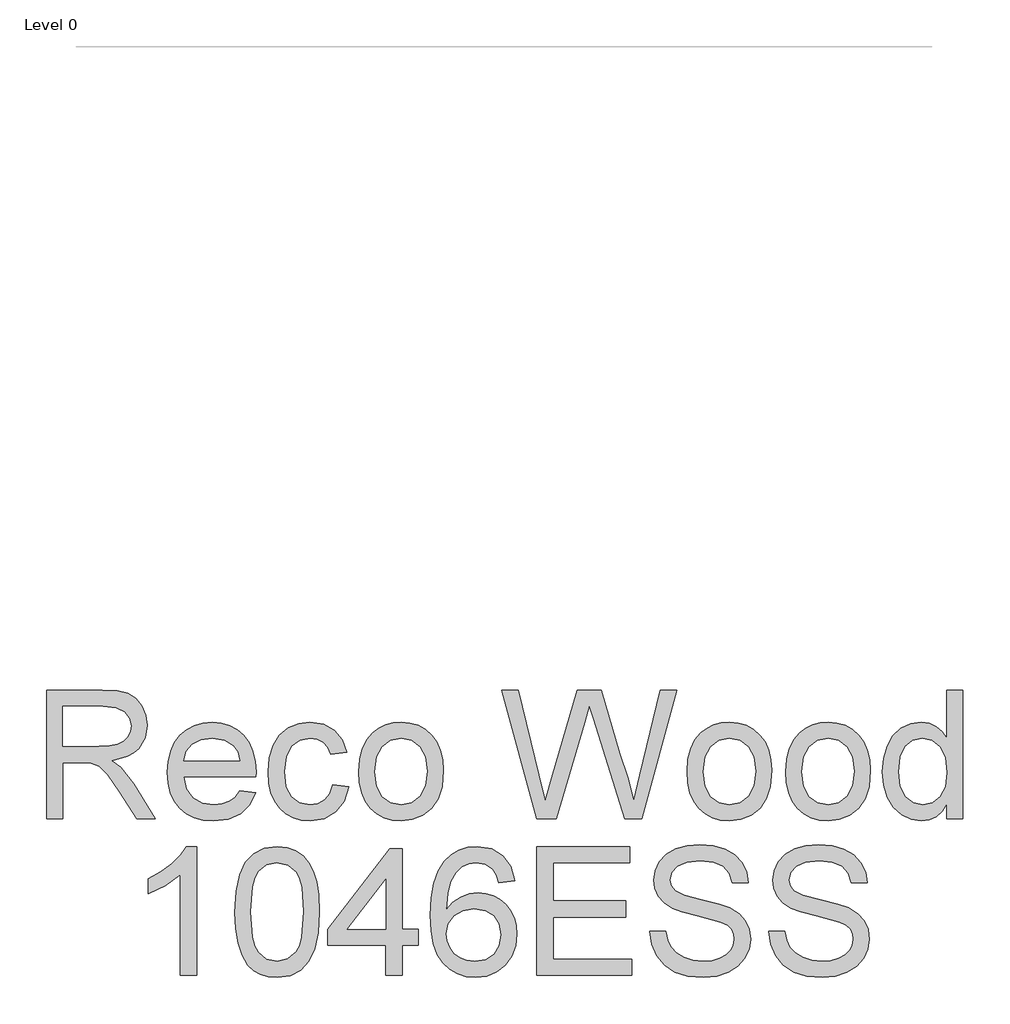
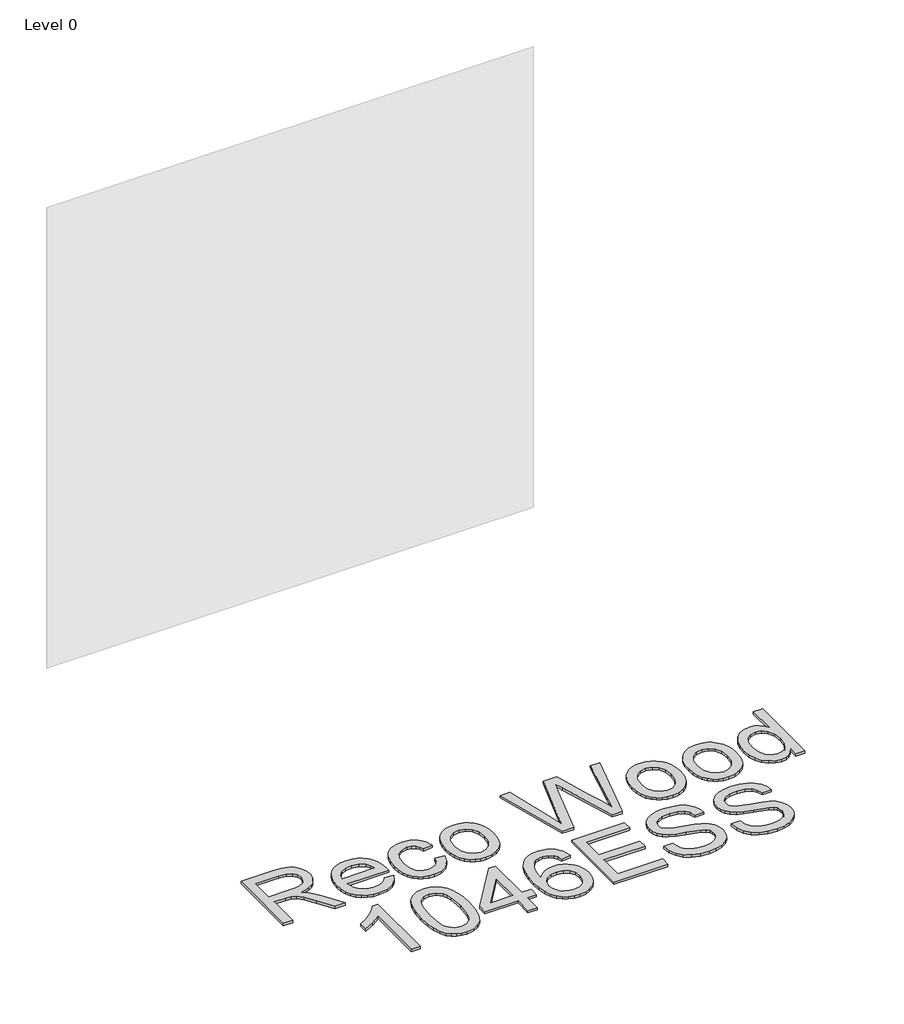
# One storey, part 40 of 43: 1 proxy.
"""IFC4 building model written with IfcOpenShell, lengths in millimetres."""

import ifcopenshell
import ifcopenshell.guid

model = None  # the IFC model being written
_history = None  # IfcOwnerHistory: only IFC2X3 demands one
_inside = {}  # id of a spatial element -> (the spatial element, [elements in it])
_under = {}  # id of a project, library or spatial element -> (it, [spatial elements below it])
_declared = {}  # id of a project -> (the project, [libraries it declares])
_typed = {}  # id of a type object -> (the type object, [elements of that type])
_made_of = {}  # id of a material, layer set ... -> (it, [elements and type objects made of it])


def new_model(schema):
    """Start an empty IFC model of exactly this schema.

    Asked for "IFC4X3", IfcOpenShell would pick the latest addendum, in which some entities
    have other attributes; the version numbers below select the first issue.
    IFC2X3 requires an IfcOwnerHistory on every rooted entity: one is made here for all.
    """
    global model, _history
    if schema == "IFC4X3":
        model = ifcopenshell.file(schema_version=(4, 3, 0, 0))
    else:
        model = ifcopenshell.file(schema=schema)
    _inside.clear()
    _under.clear()
    _declared.clear()
    _typed.clear()
    _made_of.clear()
    _history = None
    if model.schema == "IFC2X3":
        org = make("IfcOrganization", Name="unknown")
        user = make(
            "IfcPersonAndOrganization",
            ThePerson=make("IfcPerson", FamilyName="unknown"),
            TheOrganization=org,
        )
        app = make(
            "IfcApplication",
            ApplicationDeveloper=org,
            Version="unknown",
            ApplicationFullName="unknown",
            ApplicationIdentifier="unknown",
        )
        _history = make(
            "IfcOwnerHistory",
            OwningUser=user,
            OwningApplication=app,
            ChangeAction="ADDED",
            CreationDate=0,
        )
    return model


def make(cls, **values):
    """One entity of the class cls with the attributes given. An attribute that is None is left unset."""
    return model.create_entity(
        cls, **{name: value for name, value in values.items() if value is not None}
    )


def rooted(cls, **values):
    """An entity with a GlobalId (a new one), such as an element, a storey or a relation."""
    return make(cls, GlobalId=ifcopenshell.guid.new(), OwnerHistory=_history, **values)


def si_unit(unit_type, name, prefix=None):
    """IfcSIUnit, for example si_unit("LENGTHUNIT", "METRE", prefix="MILLI")."""
    return make("IfcSIUnit", UnitType=unit_type, Prefix=prefix, Name=name)


def assignment(units):
    """IfcUnitAssignment: the units of a project."""
    return None if units is None else make("IfcUnitAssignment", Units=units)


def point(xyz):
    """IfcCartesianPoint."""
    return None if xyz is None else make("IfcCartesianPoint", Coordinates=xyz)


def direction(xyz):
    """IfcDirection."""
    return None if xyz is None else make("IfcDirection", DirectionRatios=xyz)


def frame(location, z_axis=None, x_axis=None):
    """IfcAxis2Placement3D, a coordinate frame: its origin and axes. An axis left out is left unset."""
    return make(
        "IfcAxis2Placement3D",
        Location=point(location),
        Axis=direction(z_axis),
        RefDirection=direction(x_axis),
    )


def origin():
    """The frame at (0, 0, 0) with its axes left unset."""
    return frame((0.0, 0.0, 0.0))


def origin_with_axes():
    """The frame at (0, 0, 0) with the z axis (0, 0, 1) and the x axis (1, 0, 0) written out."""
    return frame((0.0, 0.0, 0.0), z_axis=(0.0, 0.0, 1.0), x_axis=(1.0, 0.0, 0.0))


def place(relative_to, where):
    """IfcLocalPlacement: puts the frame where relative to a parent placement (None: the world)."""
    return make(
        "IfcLocalPlacement", PlacementRelTo=relative_to, RelativePlacement=where
    )


def context(
    kind, dimensions, precision=None, world=None, true_north=None, identifier=None
):
    """IfcGeometricRepresentationContext, for example the 3D "Model" context."""
    return make(
        "IfcGeometricRepresentationContext",
        ContextIdentifier=identifier,
        ContextType=kind,
        CoordinateSpaceDimension=dimensions,
        Precision=precision,
        WorldCoordinateSystem=world,
        TrueNorth=true_north,
    )


def project(units=None, contexts=None):
    """IfcProject with its units and contexts."""
    return rooted(
        "IfcProject",
        Name="project",
        RepresentationContexts=contexts,
        UnitsInContext=assignment(units),
    )


def spatial(cls, under=None, at=None, **own):
    """A site, building, storey or space (cls), placed at a placement, below another one or the project."""
    s = rooted(cls, ObjectPlacement=at, **own)
    if under is not None:
        _under.setdefault(under.id(), (under, []))[1].append(s)
    return s


def polyline(points):
    """IfcPolyline through the points."""
    return make("IfcPolyline", Points=[point(p) for p in points])


def outline(outer, holes=None, kind="AREA"):
    """IfcArbitraryClosedProfileDef: a profile drawn as a closed curve; with holes, ...WithVoids."""
    if holes is None:
        return make("IfcArbitraryClosedProfileDef", ProfileType=kind, OuterCurve=outer)
    return make(
        "IfcArbitraryProfileDefWithVoids",
        ProfileType=kind,
        OuterCurve=outer,
        InnerCurves=holes,
    )


def extrude(swept, where, along, depth):
    """IfcExtrudedAreaSolid: the profile swept, set in the frame where, extruded along a direction by depth."""
    return make(
        "IfcExtrudedAreaSolid",
        SweptArea=swept,
        Position=where,
        ExtrudedDirection=direction(along),
        Depth=depth,
    )


def shape(context_of_items, identifier, shape_type, items):
    """IfcShapeRepresentation: the items that make up one representation, for example the "Body"."""
    return make(
        "IfcShapeRepresentation",
        ContextOfItems=context_of_items,
        RepresentationIdentifier=identifier,
        RepresentationType=shape_type,
        Items=items,
    )


def made_of(thing, what):
    """Note that an element or type object is made of a material, layer set ...; save() writes the relation."""
    if what is not None:
        _made_of.setdefault(what.id(), (what, []))[1].append(thing)
    return thing


def element(
    cls,
    number,
    at=None,
    inside=None,
    cuts=None,
    type_object=None,
    material=None,
    context=None,
    identifier="Body",
    shape_type=None,
    held_by="IfcProductDefinitionShape",
    body=None,
    shapes=None,
    **own,
):
    """One element of the class cls, such as IfcWall. Its Tag is "e" and its number.

    at: its placement. inside: the storey or other place that contains it. cuts: it is an
    opening in that element (IfcRelVoidsElement). A single representation is given by context,
    identifier, shape_type and body (its items); several are given by shapes. held_by: the class
    of the entity that holds the representations. save() writes the other relations.
    """
    e = rooted(cls, Tag="e%d" % number, ObjectPlacement=at, **own)
    if body is not None:
        shapes = [shape(context, identifier, shape_type, body)]
    if shapes is not None:
        e.Representation = make(held_by, Representations=shapes)
    if inside is not None:
        _inside.setdefault(inside.id(), (inside, []))[1].append(e)
    if cuts is not None:
        rooted(
            "IfcRelVoidsElement", RelatingBuildingElement=cuts, RelatedOpeningElement=e
        )
    if type_object is not None:
        _typed.setdefault(type_object.id(), (type_object, []))[1].append(e)
    return made_of(e, material)


def aggregate(whole, parts):
    """IfcRelAggregates: a whole, such as a stair, and the parts it consists of."""
    return rooted("IfcRelAggregates", RelatingObject=whole, RelatedObjects=parts)


def save(model, path):
    """Write the relations noted so far, then the file.

    IfcRelAggregates (storeys below a building ...), IfcRelContainedInSpatialStructure (elements
    in a storey), IfcRelDefinesByType, IfcRelAssociatesMaterial and IfcRelDeclares: one each for
    every whole, place, type object, material and project.
    """
    for whole, parts in _under.values():
        aggregate(whole, parts)
    for where, things in _inside.values():
        rooted(
            "IfcRelContainedInSpatialStructure",
            RelatedElements=things,
            RelatingStructure=where,
        )
    for kind, things in _typed.values():
        rooted("IfcRelDefinesByType", RelatedObjects=things, RelatingType=kind)
    for what, things in _made_of.values():
        rooted("IfcRelAssociatesMaterial", RelatedObjects=things, RelatingMaterial=what)
    for by, libraries in _declared.values():
        rooted("IfcRelDeclares", RelatingContext=by, RelatedDefinitions=libraries)
    model.write(path)


model = new_model("IFC4")

# Units and contexts
model_context = context("Model", 3, world=origin())
ifc_project = project(units=[si_unit("LENGTHUNIT", "METRE", prefix="MILLI")], contexts=[model_context])

# Site, building, storey
site = spatial("IfcSite", under=ifc_project)
building = spatial("IfcBuilding", under=site)
storey = spatial("IfcBuildingStorey", under=building, Name="Level 0", Elevation=0.0)

# Proxy
placement = place(None, origin())
element("IfcBuildingElementProxy", 1, Name="300mm Arial", ObjectType="300mm Arial", at=placement, inside=storey, context=model_context, shape_type="SweptSolid", body=[
    extrude(outline(polyline([(31480.4240185, -7003.860494), (31480.4240185, -6702.4915635), (31610.2863628, -6702.4915635), (31645.1891671, -6704.5241116), (31670.5822218, -6710.6217556), (31689.1418685, -6721.8789447), (31703.5444486, -6739.3901276), (31712.7874837, -6761.1043624), (31715.8684954, -6784.9707069), (31710.7641327, -6814.6587839), (31695.4510447, -6839.2700893), (31683.8512655, -6849.2994722), (31669.4693788, -6857.3147012), (31632.3592825, -6867.3026974), (31653.7700146, -6883.4159288), (31684.3042202, -6922.1906911), (31734.5569008, -7003.860494), (31690.7789433, -7003.860494), (31651.5627227, -6941.3941312), (31623.235809, -6900.0441949), (31603.3333931, -6880.509661), (31585.4175399, -6873.3359621), (31563.5653494, -6872.0115869), (31518.0951348, -6872.0115869), (31518.0951348, -7003.860494), (31480.4240185, -7003.860494)]), holes=[polyline([(31518.0951348, -6834.3404706), (31602.4136881, -6834.3404706), (31626.6295204, -6833.0068984), (31645.4190933, -6829.0061817), (31659.5641561, -6822.0716061), (31669.8464578, -6811.9364571), (31676.1096488, -6799.6767896), (31678.1973791, -6786.3686584), (31674.2150565, -6767.9929528), (31662.2680887, -6753.1857025), (31641.7126822, -6743.4184355), (31611.9050436, -6740.1626798), (31518.0951348, -6740.1626798), (31518.0951348, -6834.3404706)])]), origin_with_axes(), (0.0, 0.0, 1.0), 10.0),
    extrude(outline(polyline([(31932.0359558, -6937.9360404), (31968.9713081, -6942.64493), (31955.6631769, -6970.4752029), (31934.4271888, -6991.2789297), (31905.7415902, -7004.2467701), (31870.0846278, -7008.5693835), (31846.7103255, -7006.7046817), (31825.8836061, -7001.1105761), (31807.6044694, -6991.7870668), (31791.8729156, -6978.7341537), (31779.2223735, -6962.3151204), (31770.186272, -6942.8932503), (31764.7646111, -6920.4685435), (31762.9573908, -6895.0409998), (31764.7830052, -6868.7512327), (31770.2598484, -6845.5792656), (31779.3879204, -6825.5250983), (31792.1672212, -6808.5887309), (31807.8573883, -6795.133447), (31825.7180592, -6785.5225298), (31845.7492338, -6779.7559796), (31867.9509122, -6777.8337961), (31889.43752, -6779.751381), (31908.8685871, -6785.5041357), (31926.2441136, -6795.0920602), (31941.5640995, -6808.5151545), (31954.069788, -6825.4147337), (31963.0024227, -6845.4321128), (31968.3620035, -6868.5672917), (31970.1485305, -6894.8202706), (31969.9278013, -6904.9738137), (31800.6285071, -6904.9738137), (31807.1492155, -6933.1719686), (31822.2967566, -6953.902119), (31844.1581442, -6966.6492302), (31870.8203918, -6970.8982672), (31890.8699605, -6968.9300985), (31907.7557441, -6963.0255925), (31921.4777425, -6952.8168672), (31932.0359558, -6937.9360404)]), holes=[polyline([(31800.6285071, -6867.3026974), (31932.4774142, -6867.3026974), (31927.3822485, -6847.4002814), (31917.3942524, -6833.1632482), (31895.4316973, -6819.9194964), (31867.8037594, -6815.5049125), (31842.4107047, -6819.0273826), (31821.4138398, -6829.5947929), (31806.8181217, -6846.0667092), (31800.6285071, -6867.3026974)])]), origin_with_axes(), (0.0, 0.0, 1.0), 10.0),
    extrude(outline(polyline([(32149.0863329, -6923.8093718), (32186.7574492, -6928.5182614), (32176.2544183, -6962.0231141), (32156.5175492, -6987.3425924), (32129.4046462, -7003.2626857), (32096.7735132, -7008.5693835), (32075.6455904, -7006.7184772), (32056.7019669, -7001.1657584), (32039.9426428, -6991.9112269), (32025.367618, -6978.9548829), (32013.5701022, -6962.5404481), (32005.1433053, -6942.9116444), (32000.0872271, -6920.0684718), (31998.4018677, -6894.0109302), (32001.2805443, -6860.4876834), (32009.9165742, -6831.4342028), (32024.447913, -6807.9725286), (32045.0125165, -6791.2247008), (32069.6146249, -6781.1815223), (32096.2584784, -6777.8337961), (32128.0894681, -6782.4323211), (32153.5377051, -6796.2278959), (32171.7938491, -6818.4847566), (32182.0485597, -6848.4671392), (32144.3774434, -6853.1760288), (32137.5440353, -6836.7409006), (32126.9030486, -6824.9594797), (32113.0430945, -6817.8685543), (32096.552784, -6815.5049125), (32072.208193, -6820.1586197), (32052.8851912, -6834.1197414), (32040.2760358, -6858.1424357), (32036.072984, -6892.9808606), (32040.1840653, -6928.2883351), (32052.5173092, -6952.3938029), (32071.4908231, -6966.2721511), (32095.5227144, -6970.8982672), (32115.0296572, -6968.0103936), (32131.023327, -6959.3467726), (32142.6575951, -6944.6866751), (32149.0863329, -6923.8093718)])), origin_with_axes(), (0.0, 0.0, 1.0), 10.0),
    extrude(outline(polyline([(32210.3018969, -6893.2015898), (32212.3390435, -6864.5389839), (32218.4504831, -6839.8403064), (32228.6362159, -6819.1055575), (32242.8962417, -6802.334737), (32257.2528366, -6791.6155754), (32273.0993535, -6783.9590314), (32290.4357925, -6779.3651049), (32309.2621536, -6777.8337961), (32330.0451871, -6779.698498), (32348.8370593, -6785.2926036), (32365.6377701, -6794.6161129), (32380.4473197, -6807.669026), (32392.5345425, -6824.0098843), (32401.1682731, -6843.1972296), (32406.3485114, -6865.2310619), (32408.0752575, -6890.1113811), (32405.021837, -6928.1687735), (32395.8615753, -6957.1394806), (32380.861187, -6978.8353213), (32360.2873864, -6995.0681143), (32335.8508248, -7005.1940662), (32309.2621536, -7008.5693835), (32288.1756175, -7006.7115794), (32269.2090014, -7001.1381672), (32252.3623053, -6991.8491468), (32237.6355292, -6978.8445183), (32225.6770651, -6962.3450108), (32217.135305, -6942.5713536), (32212.010249, -6919.5235466), (32210.3018969, -6893.2015898)]), holes=[polyline([(32247.9730132, -6893.1280134), (32252.3324149, -6927.2214773), (32265.4106198, -6951.5108861), (32285.0923066, -6966.0514219), (32309.2621536, -6970.8982672), (32333.3216361, -6966.0238308), (32352.9665347, -6951.4005215), (32366.0447396, -6926.789216), (32370.4041412, -6891.950791), (32366.0171484, -6858.8506085), (32352.8561701, -6834.8922936), (32333.1836804, -6820.3517577), (32309.2621536, -6815.5049125), (32285.0923066, -6820.3333636), (32265.4106198, -6834.8187172), (32252.3324149, -6859.0529436), (32247.9730132, -6893.1280134)])]), origin_with_axes(), (0.0, 0.0, 1.0), 10.0),
    extrude(outline(polyline([(32626.8178919, -7003.860494), (32544.6330542, -6702.4915635), (32583.4813928, -6702.4915635), (32631.1588994, -6900.5592297), (32645.8741792, -6961.7012173), (32661.6195286, -6907.622564), (32721.3635646, -6702.4915635), (32777.3552043, -6702.4915635), (32820.7652797, -6851.189466), (32839.3617146, -6906.3717653), (32853.0653189, -6961.7012173), (32867.3391403, -6902.3250633), (32915.4581053, -6702.4915635), (32954.306444, -6702.4915635), (32872.0480299, -7003.860494), (32831.8017396, -7003.860494), (32759.5497157, -6771.359073), (32749.4697491, -6738.9118811), (32738.1389836, -6777.9809489), (32672.2881065, -7003.860494), (32626.8178919, -7003.860494)])), origin_with_axes(), (0.0, 0.0, 1.0), 10.0),
    extrude(outline(polyline([(32977.8508917, -6893.2015898), (32979.8880382, -6864.5389839), (32985.9994779, -6839.8403064), (32996.1852106, -6819.1055575), (33010.4452364, -6802.334737), (33024.8018313, -6791.6155754), (33040.6483483, -6783.9590314), (33057.9847873, -6779.3651049), (33076.8111484, -6777.8337961), (33097.5941818, -6779.698498), (33116.386054, -6785.2926036), (33133.1867649, -6794.6161129), (33147.9963144, -6807.669026), (33160.0835372, -6824.0098843), (33168.7172678, -6843.1972296), (33173.8975062, -6865.2310619), (33175.6242523, -6890.1113811), (33172.5708317, -6928.1687735), (33163.41057, -6957.1394806), (33148.4101817, -6978.8353213), (33127.8363811, -6995.0681143), (33103.3998196, -7005.1940662), (33076.8111484, -7008.5693835), (33055.7246123, -7006.7115794), (33036.7579962, -7001.1381672), (33019.9113, -6991.8491468), (33005.1845239, -6978.8445183), (32993.2260598, -6962.3450108), (32984.6842997, -6942.5713536), (32979.5592437, -6919.5235466), (32977.8508917, -6893.2015898)]), holes=[polyline([(33015.522008, -6893.1280134), (33019.8814096, -6927.2214773), (33032.9596146, -6951.5108861), (33052.6413013, -6966.0514219), (33076.8111484, -6970.8982672), (33100.8706309, -6966.0238308), (33120.5155294, -6951.4005215), (33133.5937343, -6926.789216), (33137.953136, -6891.950791), (33133.5661432, -6858.8506085), (33120.4051648, -6834.8922936), (33100.7326751, -6820.3517577), (33076.8111484, -6815.5049125), (33052.6413013, -6820.3333636), (33032.9596146, -6834.8187172), (33019.8814096, -6859.0529436), (33015.522008, -6893.1280134)])]), origin_with_axes(), (0.0, 0.0, 1.0), 10.0),
    extrude(outline(polyline([(33208.586479, -6893.2015898), (33210.6236256, -6864.5389839), (33216.7350652, -6839.8403064), (33226.920798, -6819.1055575), (33241.1808238, -6802.334737), (33255.5374187, -6791.6155754), (33271.3839356, -6783.9590314), (33288.7203746, -6779.3651049), (33307.5467358, -6777.8337961), (33328.3297692, -6779.698498), (33347.1216414, -6785.2926036), (33363.9223523, -6794.6161129), (33378.7319018, -6807.669026), (33390.8191246, -6824.0098843), (33399.4528552, -6843.1972296), (33404.6330935, -6865.2310619), (33406.3598397, -6890.1113811), (33403.3064191, -6928.1687735), (33394.1461574, -6957.1394806), (33379.1457691, -6978.8353213), (33358.5719685, -6995.0681143), (33334.135407, -7005.1940662), (33307.5467358, -7008.5693835), (33286.4601996, -7006.7115794), (33267.4935835, -7001.1381672), (33250.6468874, -6991.8491468), (33235.9201113, -6978.8445183), (33223.9616472, -6962.3450108), (33215.4198871, -6942.5713536), (33210.2948311, -6919.5235466), (33208.586479, -6893.2015898)]), holes=[polyline([(33246.2575954, -6893.1280134), (33250.616997, -6927.2214773), (33263.6952019, -6951.5108861), (33283.3768887, -6966.0514219), (33307.5467358, -6970.8982672), (33331.6062182, -6966.0238308), (33351.2511168, -6951.4005215), (33364.3293217, -6926.789216), (33368.6887234, -6891.950791), (33364.3017306, -6858.8506085), (33351.1407522, -6834.8922936), (33331.4682625, -6820.3517577), (33307.5467358, -6815.5049125), (33283.3768887, -6820.3333636), (33263.6952019, -6834.8187172), (33250.616997, -6859.0529436), (33246.2575954, -6893.1280134)])]), origin_with_axes(), (0.0, 0.0, 1.0), 10.0),
    extrude(outline(polyline([(33585.2976421, -7003.860494), (33585.2976421, -6968.3230932), (33574.0266575, -6985.9308452), (33560.3736369, -6998.507811), (33544.3385805, -7006.0539904), (33525.9214881, -7008.5693835), (33501.5677, -7004.9273518), (33479.2740511, -6994.0012565), (33460.4017047, -6976.5544529), (33446.3118243, -6953.350296), (33437.5378387, -6925.3268851), (33434.6131769, -6893.422319), (33437.3079125, -6861.9132261), (33445.3921193, -6833.4575538), (33458.8566004, -6809.6739828), (33477.6921585, -6792.181194), (33500.4732511, -6781.4206456), (33525.7743353, -6777.8337961), (33544.2052232, -6780.3997731), (33560.5023956, -6788.0977038), (33574.3163646, -6799.8975188), (33585.2976421, -6814.7691485), (33585.2976421, -6702.4915635), (33622.9687584, -6702.4915635), (33622.9687584, -7003.860494), (33585.2976421, -7003.860494)]), holes=[polyline([(33472.2842932, -6893.2751662), (33476.5333302, -6927.350236), (33489.2804414, -6951.5844625), (33507.8032998, -6966.069816), (33529.3795788, -6970.8982672), (33550.9466608, -6966.2905452), (33569.0004697, -6952.4673793), (33581.223349, -6929.1712519), (33585.2976421, -6896.1446458), (33581.1497726, -6860.037028), (33568.7061641, -6835.0026582), (33550.1925027, -6820.3793489), (33527.8344745, -6815.5049125), (33506.0374662, -6820.1862108), (33488.1767954, -6834.230106), (33476.2574187, -6858.3539678), (33472.2842932, -6893.2751662)])]), origin_with_axes(), (0.0, 0.0, 1.0), 10.0),
    extrude(outline(polyline([(31831.2362891, -7369.7849475), (31793.5651728, -7369.7849475), (31793.5651728, -7134.9290818), (31757.8806193, -7160.3497277), (31718.2229402, -7179.3692268), (31718.2229402, -7143.7582497), (31747.8098497, -7127.6634124), (31773.4420277, -7108.5151545), (31793.6479463, -7088.1528861), (31806.9560774, -7068.4160171), (31831.2362891, -7068.4160171), (31831.2362891, -7369.7849475)])), origin_with_axes(), (0.0, 0.0, 1.0), 10.0),
    extrude(outline(polyline([(31920.7051903, -7221.5285035), (31923.4735023, -7173.2899768), (31931.7784384, -7134.8187172), (31945.537225, -7105.5261133), (31964.6670888, -7084.8235541), (31989.3059854, -7072.5179013), (32019.5918706, -7068.4160171), (32042.8052245, -7070.8440382), (32063.5905573, -7078.1281017), (32080.9729815, -7089.983099), (32093.9776101, -7106.1239216), (32103.8000593, -7126.4126136), (32111.6359458, -7150.7112194), (32116.7678997, -7181.5673217), (32118.4785509, -7221.5285035), (32115.7378301, -7269.4911186), (32107.5156675, -7307.8704077), (32093.8396543, -7337.1906027), (32074.7373817, -7357.9759355), (32050.0433028, -7370.3643617), (32019.5918706, -7374.4938371), (31998.8433261, -7372.7004123), (31980.4492264, -7367.3201381), (31964.4095714, -7358.3530145), (31950.7243611, -7345.7990414), (31937.5909739, -7323.1053209), (31928.209983, -7294.828991), (31922.5813885, -7260.9700519), (31920.7051903, -7221.5285035)]), holes=[polyline([(31958.3763066, -7221.4549271), (31962.7908906, -7280.7115194), (31968.3091205, -7300.9795181), (31976.0346424, -7315.0073184), (31995.7531174, -7331.3688702), (32019.5918706, -7336.8227207), (32043.4306239, -7331.3504761), (32063.1490989, -7314.933742), (32070.8746208, -7300.8829491), (32076.3928507, -7280.6195489), (32080.8074346, -7221.4549271), (32076.5400035, -7163.5319069), (32071.2057146, -7143.3305869), (32063.7377101, -7128.9693935), (32044.0560233, -7111.8076984), (32019.1504122, -7106.0871334), (31995.5691764, -7111.1271167), (31976.6232536, -7126.2470667), (31968.6402143, -7141.8820515), (31962.9380434, -7162.9616898), (31958.3763066, -7221.4549271)])]), origin_with_axes(), (0.0, 0.0, 1.0), 10.0),
    extrude(outline(polyline([(32273.8719057, -7369.7849475), (32273.8719057, -7299.1516044), (32137.3141091, -7299.1516044), (32137.3141091, -7261.4804881), (32283.2896848, -7073.1249066), (32311.543022, -7073.1249066), (32311.543022, -7261.4804881), (32349.2141383, -7261.4804881), (32349.2141383, -7299.1516044), (32311.543022, -7299.1516044), (32311.543022, -7369.7849475), (32273.8719057, -7369.7849475)]), holes=[polyline([(32273.8719057, -7261.4804881), (32273.8719057, -7145.0826249), (32183.6672405, -7261.4804881), (32273.8719057, -7261.4804881)])]), origin_with_axes(), (0.0, 0.0, 1.0), 10.0),
    extrude(outline(polyline([(32575.2408362, -7148.4671392), (32537.5697198, -7153.1760288), (32531.4996669, -7134.5060175), (32523.2958984, -7121.7589064), (32506.2077798, -7110.0050766), (32485.5512057, -7106.0871334), (32468.0400228, -7108.3680017), (32451.5589094, -7115.2106069), (32437.4046496, -7129.622384), (32425.8439579, -7149.4604206), (32418.0356626, -7177.5206198), (32415.1385919, -7216.5988847), (32430.2493448, -7198.9681401), (32448.358336, -7186.5429257), (32468.45389, -7179.1760888), (32489.5243313, -7176.7204764), (32507.6241254, -7178.3989381), (32524.325968, -7183.4343229), (32539.629859, -7191.8266309), (32553.5357984, -7203.5758621), (32565.0918916, -7217.9830407), (32573.3462439, -7234.349191), (32578.2988552, -7252.6743129), (32579.9497257, -7272.9584064), (32576.8411228, -7299.9333537), (32567.5153143, -7324.9401323), (32552.7448521, -7346.1485293), (32533.3022887, -7361.7283318), (32510.0705407, -7371.3024607), (32483.932525, -7374.4938371), (32461.4756284, -7372.3785156), (32441.1938342, -7366.0325512), (32423.0871422, -7355.4559438), (32407.1555526, -7340.6486935), (32394.1670189, -7320.9854009), (32384.8894948, -7295.8406665), (32379.3229804, -7265.2144904), (32377.4674755, -7229.1068726), (32379.5276147, -7188.6260575), (32385.7080322, -7154.0773396), (32396.0087281, -7125.4607189), (32410.4297023, -7102.7761954), (32426.0600886, -7087.7436174), (32444.1828754, -7077.0060617), (32464.7980627, -7070.5635282), (32487.9056505, -7068.4160171), (32520.9598478, -7073.7319119), (32547.4289573, -7089.6795964), (32565.9702099, -7115.0082718), (32575.2408362, -7148.4671392)]), holes=[polyline([(32415.1385919, -7272.3697952), (32417.3182927, -7289.0624407), (32423.8573951, -7305.0009282), (32434.0109382, -7318.7045325), (32447.0339608, -7328.6925287), (32462.7517191, -7334.7901727), (32480.989469, -7336.8227207), (32505.8490948, -7332.6104719), (32525.3928258, -7319.9737254), (32538.0571635, -7300.1080976), (32542.2786094, -7274.2092052), (32538.1123458, -7249.3495793), (32525.613555, -7230.3944595), (32505.7387302, -7218.3923095), (32479.4443646, -7214.3915928), (32454.621527, -7218.3923095), (32433.8637854, -7230.3944595), (32419.8198902, -7248.8897269), (32415.1385919, -7272.3697952)])]), origin_with_axes(), (0.0, 0.0, 1.0), 10.0),
    extrude(outline(polyline([(32627.0386211, -7369.7849475), (32627.0386211, -7068.4160171), (32843.6475398, -7068.4160171), (32843.6475398, -7106.0871334), (32664.7097374, -7106.0871334), (32664.7097374, -7195.5560346), (32834.2297608, -7195.5560346), (32834.2297608, -7233.2271509), (32664.7097374, -7233.2271509), (32664.7097374, -7332.1138312), (32848.3564294, -7332.1138312), (32848.3564294, -7369.7849475), (32627.0386211, -7369.7849475)])), origin_with_axes(), (0.0, 0.0, 1.0), 10.0),
    extrude(outline(polyline([(32890.7364352, -7266.1893777), (32928.4075515, -7266.1893777), (32932.730165, -7287.0942721), (32940.5476574, -7303.8972822), (32952.7429455, -7317.2330045), (32970.1989462, -7327.7360355), (32991.5361019, -7334.5510494), (33015.3748552, -7336.8227207), (33036.362523, -7335.1028724), (33054.7382287, -7329.9433274), (33069.6282524, -7321.7763471), (33080.1588745, -7311.0341929), (33086.4220655, -7298.700949), (33088.5097958, -7285.7606998), (33086.9462973, -7273.1515444), (33082.2558019, -7262.2530403), (33072.7276582, -7252.9548229), (33056.651215, -7245.1465276), (33001.8000096, -7230.7623415), (32965.7935593, -7221.2433949), (32942.7549493, -7212.1843008), (32924.0021646, -7199.510766), (32910.7124276, -7184.1516928), (32902.7937676, -7166.4381747), (32900.1542143, -7146.7013056), (32903.419167, -7124.637583), (32913.2140251, -7104.0637824), (32929.2812713, -7086.6261758), (32951.363388, -7073.9710352), (32977.8692858, -7066.2731044), (33007.2078749, -7063.7071275), (33038.9928793, -7066.3926661), (33066.8047581, -7074.4492818), (33089.65023, -7087.7114277), (33106.5360136, -7106.013557), (33117.2229855, -7128.2152354), (33121.4720226, -7153.1760288), (33083.8009063, -7153.1760288), (33076.8847248, -7130.6984389), (33062.4637506, -7114.4748429), (33039.9309784, -7104.6523936), (33008.6794029, -7101.3782438), (32976.6920634, -7104.6156054), (32954.7479024, -7114.3276901), (32942.0559735, -7128.6199056), (32937.8253306, -7145.5976597), (32940.8235689, -7160.0738162), (32949.8182836, -7171.7172813), (32971.081863, -7182.1283418), (33011.3281532, -7192.7601314), (33052.8620305, -7202.8584922), (33077.9883708, -7211.669266), (33099.4634822, -7225.3360821), (33114.4454765, -7242.2034716), (33123.2470532, -7262.0874934), (33126.1809121, -7284.8042066), (33122.8055948, -7308.0267576), (33112.6796429, -7329.869751), (33096.2169236, -7348.668521), (33073.8313042, -7362.7584014), (33046.9115392, -7371.5599781), (33016.8463832, -7374.4938371), (32979.938622, -7371.3300519), (32949.5607662, -7361.8386964), (32925.363328, -7345.9829824), (32906.9968194, -7323.7261217), (32895.2062015, -7296.6132187), (32890.7364352, -7266.1893777)])), origin_with_axes(), (0.0, 0.0, 1.0), 10.0),
    extrude(outline(polyline([(33168.560918, -7266.1893777), (33206.2320343, -7266.1893777), (33210.5546477, -7287.0942721), (33218.3721401, -7303.8972822), (33230.5674283, -7317.2330045), (33248.0234289, -7327.7360355), (33269.3605847, -7334.5510494), (33293.1993379, -7336.8227207), (33314.1870058, -7335.1028724), (33332.5627114, -7329.9433274), (33347.4527352, -7321.7763471), (33357.9833573, -7311.0341929), (33364.2465483, -7298.700949), (33366.3342786, -7285.7606998), (33364.7707801, -7273.1515444), (33360.0802847, -7262.2530403), (33350.552141, -7252.9548229), (33334.4756978, -7245.1465276), (33279.6244923, -7230.7623415), (33243.618042, -7221.2433949), (33220.5794321, -7212.1843008), (33201.8266474, -7199.510766), (33188.5369103, -7184.1516928), (33180.6182504, -7166.4381747), (33177.9786971, -7146.7013056), (33181.2436498, -7124.637583), (33191.0385079, -7104.0637824), (33207.105754, -7086.6261758), (33229.1878708, -7073.9710352), (33255.6937685, -7066.2731044), (33285.0323576, -7063.7071275), (33316.817362, -7066.3926661), (33344.6292409, -7074.4492818), (33367.4747128, -7087.7114277), (33384.3604963, -7106.013557), (33395.0474683, -7128.2152354), (33399.2965053, -7153.1760288), (33361.625389, -7153.1760288), (33354.7092075, -7130.6984389), (33340.2882333, -7114.4748429), (33317.7554611, -7104.6523936), (33286.5038856, -7101.3782438), (33254.5165461, -7104.6156054), (33232.5723851, -7114.3276901), (33219.8804563, -7128.6199056), (33215.6498134, -7145.5976597), (33218.6480516, -7160.0738162), (33227.6427664, -7171.7172813), (33248.9063457, -7182.1283418), (33289.152636, -7192.7601314), (33330.6865132, -7202.8584922), (33355.8128535, -7211.669266), (33377.287965, -7225.3360821), (33392.2699592, -7242.2034716), (33401.071536, -7262.0874934), (33404.0053949, -7284.8042066), (33400.6300776, -7308.0267576), (33390.5041257, -7329.869751), (33374.0414064, -7348.668521), (33351.655787, -7362.7584014), (33324.736022, -7371.5599781), (33294.6708659, -7374.4938371), (33257.7631048, -7371.3300519), (33227.385249, -7361.8386964), (33203.1878108, -7345.9829824), (33184.8213022, -7323.7261217), (33173.0306842, -7296.6132187), (33168.560918, -7266.1893777)])), origin_with_axes(), (0.0, 0.0, 1.0), 10.0),
])

save(model, "model.ifc")
